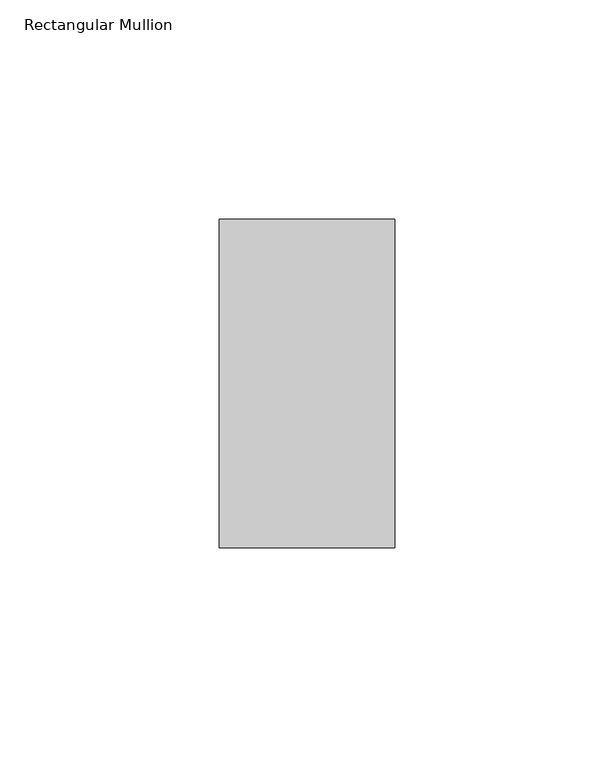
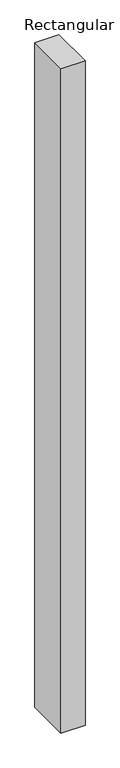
"""IFC4 building model written with IfcOpenShell, lengths in millimetres: member geometry, Rectangular Mullion : 22_IM_VNS_DET1_boven."""

import ifcopenshell
import ifcopenshell.guid

model = None  # the IFC model being written
_history = None  # IfcOwnerHistory: only IFC2X3 demands one
_inside = {}  # id of a spatial element -> (the spatial element, [elements in it])
_under = {}  # id of a project, library or spatial element -> (it, [spatial elements below it])
_declared = {}  # id of a project -> (the project, [libraries it declares])
_typed = {}  # id of a type object -> (the type object, [elements of that type])
_made_of = {}  # id of a material, layer set ... -> (it, [elements and type objects made of it])


def new_model(schema):
    """Start an empty IFC model of exactly this schema.

    Asked for "IFC4X3", IfcOpenShell would pick the latest addendum, in which some entities
    have other attributes; the version numbers below select the first issue.
    IFC2X3 requires an IfcOwnerHistory on every rooted entity: one is made here for all.
    """
    global model, _history
    if schema == "IFC4X3":
        model = ifcopenshell.file(schema_version=(4, 3, 0, 0))
    else:
        model = ifcopenshell.file(schema=schema)
    _inside.clear()
    _under.clear()
    _declared.clear()
    _typed.clear()
    _made_of.clear()
    _history = None
    if model.schema == "IFC2X3":
        org = make("IfcOrganization", Name="unknown")
        user = make(
            "IfcPersonAndOrganization",
            ThePerson=make("IfcPerson", FamilyName="unknown"),
            TheOrganization=org,
        )
        app = make(
            "IfcApplication",
            ApplicationDeveloper=org,
            Version="unknown",
            ApplicationFullName="unknown",
            ApplicationIdentifier="unknown",
        )
        _history = make(
            "IfcOwnerHistory",
            OwningUser=user,
            OwningApplication=app,
            ChangeAction="ADDED",
            CreationDate=0,
        )
    return model


def make(cls, **values):
    """One entity of the class cls with the attributes given. An attribute that is None is left unset."""
    return model.create_entity(
        cls, **{name: value for name, value in values.items() if value is not None}
    )


def rooted(cls, **values):
    """An entity with a GlobalId (a new one), such as an element, a storey or a relation."""
    return make(cls, GlobalId=ifcopenshell.guid.new(), OwnerHistory=_history, **values)


def si_unit(unit_type, name, prefix=None):
    """IfcSIUnit, for example si_unit("LENGTHUNIT", "METRE", prefix="MILLI")."""
    return make("IfcSIUnit", UnitType=unit_type, Prefix=prefix, Name=name)


def assignment(units):
    """IfcUnitAssignment: the units of a project."""
    return None if units is None else make("IfcUnitAssignment", Units=units)


def point(xyz):
    """IfcCartesianPoint."""
    return None if xyz is None else make("IfcCartesianPoint", Coordinates=xyz)


def direction(xyz):
    """IfcDirection."""
    return None if xyz is None else make("IfcDirection", DirectionRatios=xyz)


def frame(location, z_axis=None, x_axis=None):
    """IfcAxis2Placement3D, a coordinate frame: its origin and axes. An axis left out is left unset."""
    return make(
        "IfcAxis2Placement3D",
        Location=point(location),
        Axis=direction(z_axis),
        RefDirection=direction(x_axis),
    )


def origin():
    """The frame at (0, 0, 0) with its axes left unset."""
    return frame((0.0, 0.0, 0.0))


def place(relative_to, where):
    """IfcLocalPlacement: puts the frame where relative to a parent placement (None: the world)."""
    return make(
        "IfcLocalPlacement", PlacementRelTo=relative_to, RelativePlacement=where
    )


def context(
    kind, dimensions, precision=None, world=None, true_north=None, identifier=None
):
    """IfcGeometricRepresentationContext, for example the 3D "Model" context."""
    return make(
        "IfcGeometricRepresentationContext",
        ContextIdentifier=identifier,
        ContextType=kind,
        CoordinateSpaceDimension=dimensions,
        Precision=precision,
        WorldCoordinateSystem=world,
        TrueNorth=true_north,
    )


def project(units=None, contexts=None):
    """IfcProject with its units and contexts."""
    return rooted(
        "IfcProject",
        Name="project",
        RepresentationContexts=contexts,
        UnitsInContext=assignment(units),
    )


def spatial(cls, under=None, at=None, **own):
    """A site, building, storey or space (cls), placed at a placement, below another one or the project."""
    s = rooted(cls, ObjectPlacement=at, **own)
    if under is not None:
        _under.setdefault(under.id(), (under, []))[1].append(s)
    return s


def polyline(points):
    """IfcPolyline through the points."""
    return make("IfcPolyline", Points=[point(p) for p in points])


def outline(outer, holes=None, kind="AREA"):
    """IfcArbitraryClosedProfileDef: a profile drawn as a closed curve; with holes, ...WithVoids."""
    if holes is None:
        return make("IfcArbitraryClosedProfileDef", ProfileType=kind, OuterCurve=outer)
    return make(
        "IfcArbitraryProfileDefWithVoids",
        ProfileType=kind,
        OuterCurve=outer,
        InnerCurves=holes,
    )


def extrude(swept, where, along, depth):
    """IfcExtrudedAreaSolid: the profile swept, set in the frame where, extruded along a direction by depth."""
    return make(
        "IfcExtrudedAreaSolid",
        SweptArea=swept,
        Position=where,
        ExtrudedDirection=direction(along),
        Depth=depth,
    )


def shape(context_of_items, identifier, shape_type, items):
    """IfcShapeRepresentation: the items that make up one representation, for example the "Body"."""
    return make(
        "IfcShapeRepresentation",
        ContextOfItems=context_of_items,
        RepresentationIdentifier=identifier,
        RepresentationType=shape_type,
        Items=items,
    )


def source(mapping_origin, context_of_items, identifier, shape_type, items):
    """IfcRepresentationMap: a shape defined once, which mapped items show again and again."""
    return make(
        "IfcRepresentationMap",
        MappingOrigin=mapping_origin,
        MappedRepresentation=shape(context_of_items, identifier, shape_type, items),
    )


def transform(
    local_origin,
    x_axis=None,
    y_axis=None,
    z_axis=None,
    scale=None,
    scale2=None,
    scale3=None,
    uniform=True,
):
    """IfcCartesianTransformationOperator3D, or its non-uniform kind. x_axis, y_axis, z_axis: its Axis1, 2, 3."""
    if uniform:
        return make(
            "IfcCartesianTransformationOperator3D",
            Axis1=direction(x_axis),
            Axis2=direction(y_axis),
            LocalOrigin=point(local_origin),
            Scale=scale,
            Axis3=direction(z_axis),
        )
    return make(
        "IfcCartesianTransformationOperator3DnonUniform",
        Axis1=direction(x_axis),
        Axis2=direction(y_axis),
        LocalOrigin=point(local_origin),
        Scale=scale,
        Axis3=direction(z_axis),
        Scale2=scale2,
        Scale3=scale3,
    )


def mapped(mapping_source, mapping_target):
    """IfcMappedItem: shows the shape of a source again, moved by a transform."""
    return make(
        "IfcMappedItem", MappingSource=mapping_source, MappingTarget=mapping_target
    )


def made_of(thing, what):
    """Note that an element or type object is made of a material, layer set ...; save() writes the relation."""
    if what is not None:
        _made_of.setdefault(what.id(), (what, []))[1].append(thing)
    return thing


def element(
    cls,
    number,
    at=None,
    inside=None,
    cuts=None,
    type_object=None,
    material=None,
    context=None,
    identifier="Body",
    shape_type=None,
    held_by="IfcProductDefinitionShape",
    body=None,
    shapes=None,
    **own,
):
    """One element of the class cls, such as IfcWall. Its Tag is "e" and its number.

    at: its placement. inside: the storey or other place that contains it. cuts: it is an
    opening in that element (IfcRelVoidsElement). A single representation is given by context,
    identifier, shape_type and body (its items); several are given by shapes. held_by: the class
    of the entity that holds the representations. save() writes the other relations.
    """
    e = rooted(cls, Tag="e%d" % number, ObjectPlacement=at, **own)
    if body is not None:
        shapes = [shape(context, identifier, shape_type, body)]
    if shapes is not None:
        e.Representation = make(held_by, Representations=shapes)
    if inside is not None:
        _inside.setdefault(inside.id(), (inside, []))[1].append(e)
    if cuts is not None:
        rooted(
            "IfcRelVoidsElement", RelatingBuildingElement=cuts, RelatedOpeningElement=e
        )
    if type_object is not None:
        _typed.setdefault(type_object.id(), (type_object, []))[1].append(e)
    return made_of(e, material)


def aggregate(whole, parts):
    """IfcRelAggregates: a whole, such as a stair, and the parts it consists of."""
    return rooted("IfcRelAggregates", RelatingObject=whole, RelatedObjects=parts)


def save(model, path):
    """Write the relations noted so far, then the file.

    IfcRelAggregates (storeys below a building ...), IfcRelContainedInSpatialStructure (elements
    in a storey), IfcRelDefinesByType, IfcRelAssociatesMaterial and IfcRelDeclares: one each for
    every whole, place, type object, material and project.
    """
    for whole, parts in _under.values():
        aggregate(whole, parts)
    for where, things in _inside.values():
        rooted(
            "IfcRelContainedInSpatialStructure",
            RelatedElements=things,
            RelatingStructure=where,
        )
    for kind, things in _typed.values():
        rooted("IfcRelDefinesByType", RelatedObjects=things, RelatingType=kind)
    for what, things in _made_of.values():
        rooted("IfcRelAssociatesMaterial", RelatedObjects=things, RelatingMaterial=what)
    for by, libraries in _declared.values():
        rooted("IfcRelDeclares", RelatingContext=by, RelatedDefinitions=libraries)
    model.write(path)


def rectangular_mullion_8b4171a3(model_context):
    return source(origin(), model_context, "Body", "SweptSolid", [
        extrude(outline(polyline([(0.0, 37.5), (0.0, -37.5), (-40.0, -37.5), (-40.0, 37.5), (0.0, 37.5)])), frame((0.0, 0.0, -1168.0), z_axis=(0.0, 0.0, 1.0), x_axis=(1.0, 0.0, 0.0)), (0.0, 0.0, 1.0), 1168.0),
    ])


if __name__ == "__main__":
    model = new_model("IFC4")
    model_context = context("Model", 3, world=origin())
    ifc_project = project(units=[si_unit("LENGTHUNIT", "METRE", prefix="MILLI")], contexts=[model_context])
    site = spatial("IfcSite", under=ifc_project)
    building = spatial("IfcBuilding", under=site)
    placement = place(None, origin())
    rectangular_mullion_shape = rectangular_mullion_8b4171a3(model_context)
    element("IfcMember", 1, ObjectType="Rectangular Mullion : 22_IM_VNS_DET1_boven", at=placement, inside=building, context=model_context, shape_type="MappedRepresentation", body=[
        mapped(rectangular_mullion_shape, transform((0.0, 0.0, 0.0), x_axis=(1.0, 0.0, 0.0), y_axis=(0.0, 1.0, 0.0), z_axis=(0.0, 0.0, 1.0))),
    ])
    save(model, "model.ifc")
